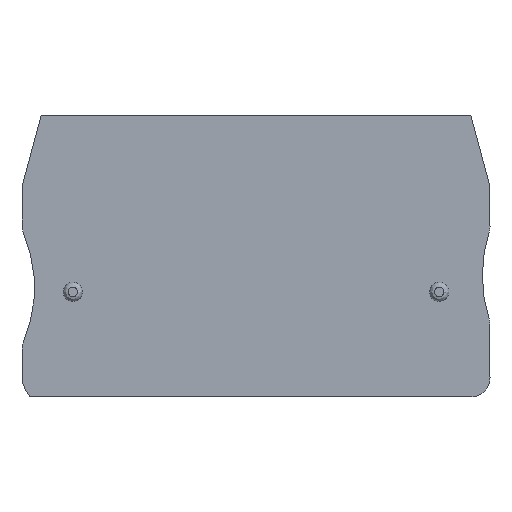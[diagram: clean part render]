
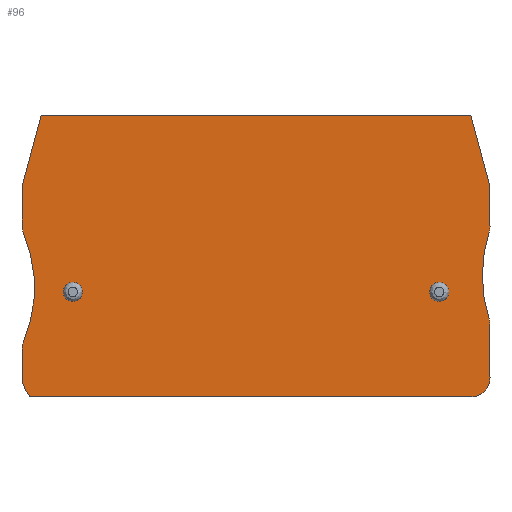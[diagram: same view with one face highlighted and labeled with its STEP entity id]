
A CAD part, top view. The second image highlights one B-rep face of the part: STEP entity #96.
In plain terms, the highlighted planar face has unit normal (0, 0, 1).
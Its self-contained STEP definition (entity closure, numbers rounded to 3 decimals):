
#36=FACE_BOUND('',#154,.T.);
#37=FACE_BOUND('',#155,.T.);
#38=FACE_BOUND('',#156,.T.);
#58=CIRCLE('',#455,2.);
#60=CIRCLE('',#458,14.5);
#62=CIRCLE('',#461,2.);
#64=CIRCLE('',#465,2.);
#66=CIRCLE('',#470,2.);
#68=CIRCLE('',#474,2.);
#70=CIRCLE('',#477,14.5);
#72=CIRCLE('',#480,2.);
#73=CIRCLE('',#483,1.);
#74=CIRCLE('',#484,1.);
#96=ADVANCED_FACE('',(#36,#37,#38),#113,.F.);
#113=PLANE('',#485);
#154=EDGE_LOOP('',(#236,#237,#238,#239,#240,#241,#242,#243,#244,#245,#246,
#247,#248,#249,#250,#251,#252));
#155=EDGE_LOOP('',(#253));
#156=EDGE_LOOP('',(#254));
#236=ORIENTED_EDGE('',*,*,#324,.F.);
#237=ORIENTED_EDGE('',*,*,#372,.F.);
#238=ORIENTED_EDGE('',*,*,#369,.F.);
#239=ORIENTED_EDGE('',*,*,#366,.F.);
#240=ORIENTED_EDGE('',*,*,#363,.F.);
#241=ORIENTED_EDGE('',*,*,#360,.F.);
#242=ORIENTED_EDGE('',*,*,#357,.F.);
#243=ORIENTED_EDGE('',*,*,#354,.F.);
#244=ORIENTED_EDGE('',*,*,#351,.F.);
#245=ORIENTED_EDGE('',*,*,#348,.F.);
#246=ORIENTED_EDGE('',*,*,#345,.F.);
#247=ORIENTED_EDGE('',*,*,#342,.F.);
#248=ORIENTED_EDGE('',*,*,#339,.F.);
#249=ORIENTED_EDGE('',*,*,#336,.F.);
#250=ORIENTED_EDGE('',*,*,#333,.F.);
#251=ORIENTED_EDGE('',*,*,#330,.F.);
#252=ORIENTED_EDGE('',*,*,#327,.F.);
#253=ORIENTED_EDGE('',*,*,#373,.F.);
#254=ORIENTED_EDGE('',*,*,#374,.F.);
#284=VERTEX_POINT('',#627);
#285=VERTEX_POINT('',#629);
#287=VERTEX_POINT('',#635);
#289=VERTEX_POINT('',#641);
#291=VERTEX_POINT('',#647);
#293=VERTEX_POINT('',#653);
#295=VERTEX_POINT('',#659);
#297=VERTEX_POINT('',#665);
#299=VERTEX_POINT('',#671);
#301=VERTEX_POINT('',#677);
#303=VERTEX_POINT('',#683);
#305=VERTEX_POINT('',#689);
#307=VERTEX_POINT('',#695);
#309=VERTEX_POINT('',#701);
#311=VERTEX_POINT('',#707);
#313=VERTEX_POINT('',#713);
#315=VERTEX_POINT('',#719);
#316=VERTEX_POINT('',#726);
#317=VERTEX_POINT('',#728);
#324=EDGE_CURVE('',#284,#285,#381,.T.);
#327=EDGE_CURVE('',#285,#287,#384,.T.);
#330=EDGE_CURVE('',#287,#289,#387,.T.);
#333=EDGE_CURVE('',#289,#291,#390,.T.);
#336=EDGE_CURVE('',#291,#293,#58,.T.);
#339=EDGE_CURVE('',#293,#295,#60,.T.);
#342=EDGE_CURVE('',#295,#297,#62,.T.);
#345=EDGE_CURVE('',#297,#299,#396,.T.);
#348=EDGE_CURVE('',#299,#301,#64,.T.);
#351=EDGE_CURVE('',#301,#303,#400,.T.);
#354=EDGE_CURVE('',#303,#305,#403,.T.);
#357=EDGE_CURVE('',#305,#307,#66,.T.);
#360=EDGE_CURVE('',#307,#309,#407,.T.);
#363=EDGE_CURVE('',#309,#311,#68,.T.);
#366=EDGE_CURVE('',#311,#313,#70,.T.);
#369=EDGE_CURVE('',#313,#315,#72,.T.);
#372=EDGE_CURVE('',#315,#284,#413,.T.);
#373=EDGE_CURVE('',#316,#316,#73,.T.);
#374=EDGE_CURVE('',#317,#317,#74,.T.);
#381=LINE('',#628,#416);
#384=LINE('',#634,#419);
#387=LINE('',#640,#422);
#390=LINE('',#646,#425);
#396=LINE('',#670,#431);
#400=LINE('',#682,#435);
#403=LINE('',#688,#438);
#407=LINE('',#700,#442);
#413=LINE('',#723,#448);
#416=VECTOR('',#499,1.);
#419=VECTOR('',#504,1.);
#422=VECTOR('',#509,1.);
#425=VECTOR('',#514,1.);
#431=VECTOR('',#540,1.);
#435=VECTOR('',#552,1.);
#438=VECTOR('',#557,1.);
#442=VECTOR('',#569,1.);
#448=VECTOR('',#595,1.);
#455=AXIS2_PLACEMENT_3D('',#652,#520,#521);
#458=AXIS2_PLACEMENT_3D('',#658,#527,#528);
#461=AXIS2_PLACEMENT_3D('',#664,#534,#535);
#465=AXIS2_PLACEMENT_3D('',#676,#546,#547);
#470=AXIS2_PLACEMENT_3D('',#694,#563,#564);
#474=AXIS2_PLACEMENT_3D('',#706,#575,#576);
#477=AXIS2_PLACEMENT_3D('',#712,#582,#583);
#480=AXIS2_PLACEMENT_3D('',#718,#589,#590);
#483=AXIS2_PLACEMENT_3D('',#725,#598,#599);
#484=AXIS2_PLACEMENT_3D('',#727,#600,#601);
#485=AXIS2_PLACEMENT_3D('',#729,#602,#603);
#499=DIRECTION('',(0.259,0.966,0.));
#504=DIRECTION('',(1.,0.,0.));
#509=DIRECTION('',(0.259,-0.966,0.));
#514=DIRECTION('',(0.,-1.,0.));
#520=DIRECTION('',(0.,0.,-1.));
#521=DIRECTION('',(1.,0.,0.));
#527=DIRECTION('',(0.,0.,1.));
#528=DIRECTION('',(1.,0.,0.));
#534=DIRECTION('',(0.,0.,-1.));
#535=DIRECTION('',(1.,0.,0.));
#540=DIRECTION('',(0.,-1.,0.));
#546=DIRECTION('',(0.,0.,-1.));
#547=DIRECTION('',(1.,0.,0.));
#552=DIRECTION('',(-1.,0.,0.));
#557=DIRECTION('',(-0.5,0.866,0.));
#563=DIRECTION('',(0.,0.,-1.));
#564=DIRECTION('',(1.,0.,0.));
#569=DIRECTION('',(0.,1.,0.));
#575=DIRECTION('',(0.,0.,-1.));
#576=DIRECTION('',(1.,0.,0.));
#582=DIRECTION('',(0.,0.,1.));
#583=DIRECTION('',(1.,0.,0.));
#589=DIRECTION('',(0.,0.,-1.));
#590=DIRECTION('',(1.,0.,0.));
#595=DIRECTION('',(0.,1.,0.));
#598=DIRECTION('',(0.,0.,1.));
#599=DIRECTION('',(1.,0.,0.));
#600=DIRECTION('',(0.,0.,1.));
#601=DIRECTION('',(1.,0.,0.));
#602=DIRECTION('',(0.,0.,-1.));
#603=DIRECTION('',(-1.,0.,0.));
#627=CARTESIAN_POINT('',(3.401,26.08,2.));
#628=CARTESIAN_POINT('',(3.401,26.08,2.));
#629=CARTESIAN_POINT('',(5.401,33.544,2.));
#634=CARTESIAN_POINT('',(5.401,33.544,2.));
#635=CARTESIAN_POINT('',(50.201,33.544,2.));
#640=CARTESIAN_POINT('',(50.201,33.544,2.));
#641=CARTESIAN_POINT('',(52.201,26.08,2.));
#646=CARTESIAN_POINT('',(52.201,26.08,2.));
#647=CARTESIAN_POINT('',(52.201,21.87,2.));
#652=CARTESIAN_POINT('',(50.201,21.87,2.));
#653=CARTESIAN_POINT('',(52.104,21.255,2.));
#658=CARTESIAN_POINT('',(65.901,16.795,2.));
#659=CARTESIAN_POINT('',(52.104,12.335,2.));
#664=CARTESIAN_POINT('',(50.201,11.719,2.));
#665=CARTESIAN_POINT('',(52.201,11.719,2.));
#670=CARTESIAN_POINT('',(52.201,11.719,2.));
#671=CARTESIAN_POINT('',(52.201,6.144,2.));
#676=CARTESIAN_POINT('',(50.201,6.144,2.));
#677=CARTESIAN_POINT('',(50.201,4.144,2.));
#682=CARTESIAN_POINT('',(50.201,4.144,2.));
#683=CARTESIAN_POINT('',(4.21,4.144,2.));
#688=CARTESIAN_POINT('',(4.21,4.144,2.));
#689=CARTESIAN_POINT('',(3.669,5.08,2.));
#694=CARTESIAN_POINT('',(5.401,6.08,2.));
#695=CARTESIAN_POINT('',(3.401,6.08,2.));
#700=CARTESIAN_POINT('',(3.401,6.08,2.));
#701=CARTESIAN_POINT('',(3.401,9.124,2.));
#706=CARTESIAN_POINT('',(5.401,9.124,2.));
#707=CARTESIAN_POINT('',(3.559,9.902,2.));
#712=CARTESIAN_POINT('',(-9.799,15.544,2.));
#713=CARTESIAN_POINT('',(3.559,21.185,2.));
#718=CARTESIAN_POINT('',(5.401,21.963,2.));
#719=CARTESIAN_POINT('',(3.401,21.963,2.));
#723=CARTESIAN_POINT('',(3.401,21.963,2.));
#725=CARTESIAN_POINT('',(46.901,15.094,2.));
#726=CARTESIAN_POINT('',(47.901,15.094,2.));
#727=CARTESIAN_POINT('',(8.701,15.094,2.));
#728=CARTESIAN_POINT('',(9.701,15.094,2.));
#729=CARTESIAN_POINT('',(50.201,21.87,2.));
